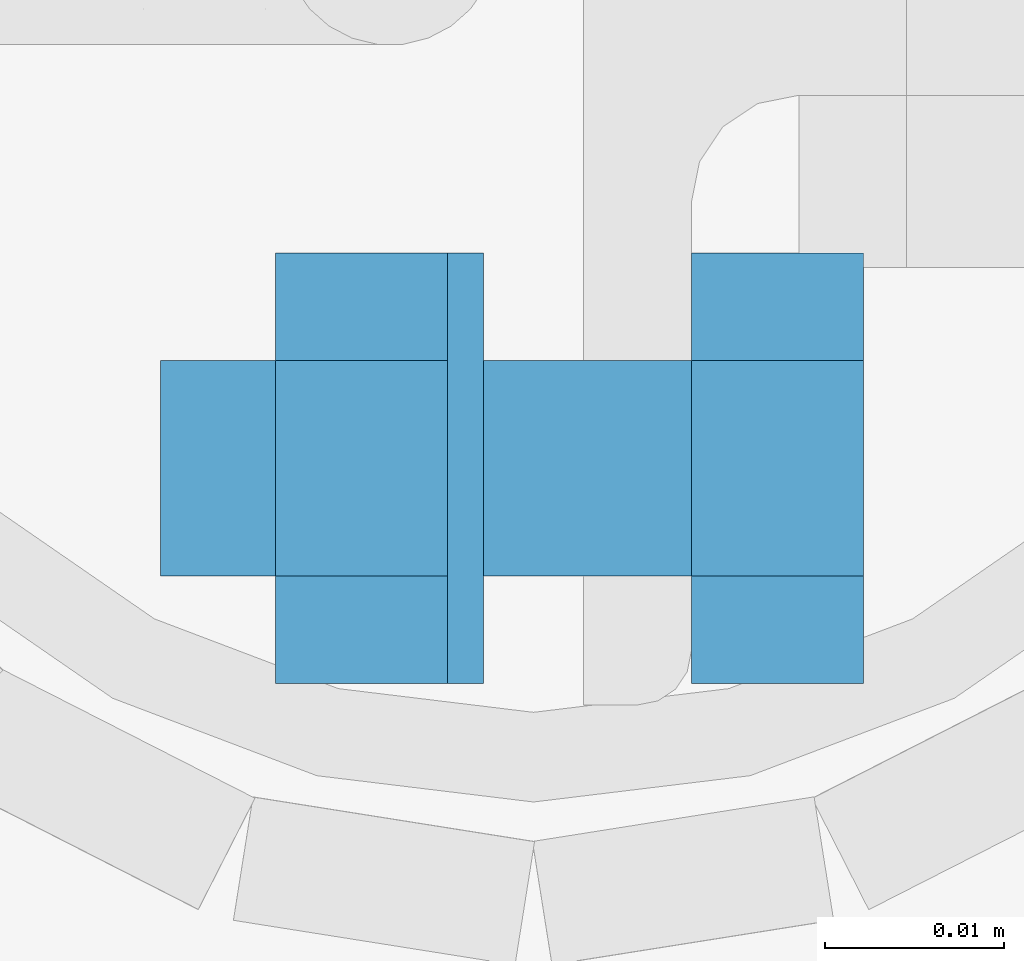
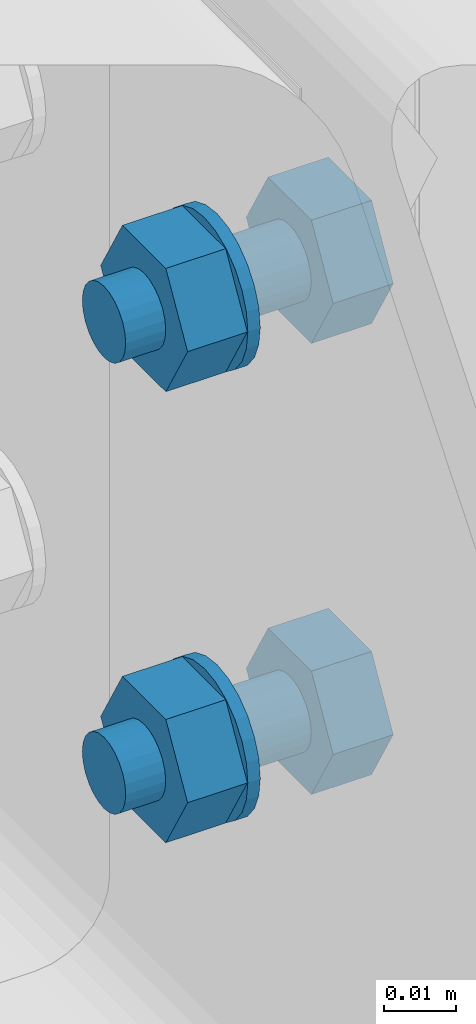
# One storey, part 51 of 84: 8 mechanical fasteners.
"""IFC4 building model written with IfcOpenShell, lengths in metres."""

from ifc_helpers import new_model, si_unit, frame, origin_with_axes, place, context, project, spatial, polyline, outline, extrude, type_object, element, save


model = new_model("IFC4")

# Units and contexts
model_context = context("Model", 3, precision=1e-05, world=origin_with_axes())
ifc_project = project(units=[si_unit("LENGTHUNIT", "METRE"), si_unit("AREAUNIT", "SQUARE_METRE"), si_unit("VOLUMEUNIT", "CUBIC_METRE"), si_unit("MASSUNIT", "GRAM", prefix="KILO"), si_unit("TIMEUNIT", "SECOND"), si_unit("PLANEANGLEUNIT", "RADIAN"), si_unit("SOLIDANGLEUNIT", "STERADIAN"), si_unit("THERMODYNAMICTEMPERATUREUNIT", "DEGREE_CELSIUS")], contexts=[model_context])

# Site, building, storey
placement_1 = place(None, origin_with_axes())
site = spatial("IfcSite", under=ifc_project, at=placement_1, Name="Italia", CompositionType="ELEMENT")
building = spatial("IfcBuilding", under=site, at=placement_1, Name="Tettoia", CompositionType="ELEMENT")
storey_placement = place(None, frame((0.0, 0.0, 4.199999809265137), z_axis=(0.0, 0.0, 1.0), x_axis=(1.0, 0.0, 0.0)))
storey = spatial("IfcBuildingStorey", under=building, at=storey_placement, Name="Storey 1", CompositionType="ELEMENT", Elevation=4.199999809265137)

# Mechanical fasteners
mechanical_fastener_type_1 = type_object("IfcMechanicalFastenerType", Name="Collegamento 0111_0112", PredefinedType="BOLT")
placement_2 = place(placement_1, origin_with_axes())
mechanical_fastener_1_placement = place(placement_2, origin_with_axes())
element("IfcMechanicalFastener", 1, at=mechanical_fastener_1_placement, inside=storey, type_object=mechanical_fastener_type_1, Name="Collegamento 0111_0112", NominalDiameter=0.0119997, context=model_context, shape_type="SweptSolid", body=[
    extrude(outline(polyline([(0.0, 0.0), (-0.0120001, 0.0), (-0.0179996, 0.0103922), (-0.0120001, 0.0207844), (0.0, 0.0207844), (0.00600052, 0.0103922), (0.0, 0.0)])), frame((0.1184, 13.9144, 4.25161), z_axis=(-1.0, 0.0, 0.0), x_axis=(0.0, -1.0, 0.0)), (0.0, 0.0, 1.0), 0.0096),
])
mechanical_fastener_type_2 = type_object("IfcMechanicalFastenerType", Name="Collegamento 0111_0112", PredefinedType="BOLT")
mechanical_fastener_2_placement = place(placement_2, origin_with_axes())
element("IfcMechanicalFastener", 2, at=mechanical_fastener_2_placement, inside=storey, type_object=mechanical_fastener_type_2, Name="Collegamento 0111_0112", NominalDiameter=0.012, context=model_context, shape_type="SweptSolid", body=[
    extrude(outline(polyline([(0.0, 0.0), (-0.000204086, -0.00155306), (-0.000802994, -0.00299978), (-0.00175667, -0.00424242), (-0.00299931, -0.00519609), (-0.00444698, -0.00579548), (-0.00599957, -0.00600004), (-0.00755215, -0.00579548), (-0.00899982, -0.00519609), (-0.0102425, -0.00424242), (-0.0111961, -0.00299978), (-0.011795, -0.00155306), (-0.0119991, 0.0), (-0.011795, 0.00155306), (-0.0111961, 0.00299978), (-0.0102425, 0.00424242), (-0.00899982, 0.00519609), (-0.00755215, 0.00579548), (-0.00599957, 0.00600004), (-0.00444698, 0.00579548), (-0.00299931, 0.00519609), (-0.00175667, 0.00424242), (-0.000802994, 0.00299978), (-0.000204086, 0.00155306), (0.0, 0.0)])), frame((0.1088, 13.9144, 4.262), z_axis=(-1.0, 0.0, 0.0), x_axis=(0.0, -1.0, 0.0)), (0.0, 0.0, 1.0), 0.0296),
])
mechanical_fastener_type_3 = type_object("IfcMechanicalFastenerType", Name="Collegamento 0111_0112", PredefinedType="BOLT")
mechanical_fastener_3_placement = place(placement_2, origin_with_axes())
element("IfcMechanicalFastener", 3, at=mechanical_fastener_3_placement, inside=storey, type_object=mechanical_fastener_type_3, Name="Collegamento 0111_0112", NominalDiameter=0.0119997, context=model_context, shape_type="SweptSolid", body=[
    extrude(outline(polyline([(0.0, 0.0), (-0.0120001, 0.0), (-0.0179996, 0.0103922), (-0.0120001, 0.0207844), (0.0, 0.0207844), (0.00600052, 0.0103922), (0.0, 0.0)])), frame((0.0951999, 13.9144, 4.25161), z_axis=(-1.0, 0.0, 0.0), x_axis=(0.0, -1.0, 0.0)), (0.0, 0.0, 1.0), 0.0096),
])
mechanical_fastener_type_4 = type_object("IfcMechanicalFastenerType", Name="Collegamento 0111_0112", PredefinedType="BOLT")
mechanical_fastener_4_placement = place(placement_2, origin_with_axes())
element("IfcMechanicalFastener", 4, at=mechanical_fastener_4_placement, inside=storey, type_object=mechanical_fastener_type_4, Name="Collegamento 0111_0112", NominalDiameter=0.024, context=model_context, shape_type="SweptSolid", body=[
    extrude(outline(polyline([(0.0, 0.0), (-0.000409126, -0.00310564), (-0.00160789, -0.00600004), (-0.00351524, -0.00848532), (-0.00600052, -0.0103922), (-0.00889397, -0.011591), (-0.0120001, -0.0120001), (-0.0151062, -0.011591), (-0.0179996, -0.0103922), (-0.0204849, -0.00848532), (-0.0223923, -0.00600004), (-0.023591, -0.00310564), (-0.0240002, 0.0), (-0.023591, 0.00310564), (-0.0223923, 0.00600004), (-0.0204849, 0.00848532), (-0.0179996, 0.0103922), (-0.0151062, 0.011591), (-0.0120001, 0.0120001), (-0.00889397, 0.011591), (-0.00600052, 0.0103922), (-0.00351524, 0.00848532), (-0.00160789, 0.00600004), (-0.000409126, 0.00310564), (0.0, 0.0)])), frame((0.0971999, 13.9084, 4.262), z_axis=(-1.0, 0.0, 0.0), x_axis=(0.0, -1.0, 0.0)), (0.0, 0.0, 1.0), 0.002),
])
mechanical_fastener_type_5 = type_object("IfcMechanicalFastenerType", Name="Collegamento 0111_0112", PredefinedType="BOLT")
mechanical_fastener_5_placement = place(placement_2, origin_with_axes())
element("IfcMechanicalFastener", 5, at=mechanical_fastener_5_placement, inside=storey, type_object=mechanical_fastener_type_5, Name="Collegamento 0111_0112", NominalDiameter=0.0119997, context=model_context, shape_type="SweptSolid", body=[
    extrude(outline(polyline([(0.0, 0.0), (-0.0120001, 0.0), (-0.0179996, 0.0103922), (-0.0120001, 0.0207844), (0.0, 0.0207844), (0.00600052, 0.0103922), (0.0, 0.0)])), frame((0.1184, 13.9144, 4.32761), z_axis=(-1.0, 0.0, 0.0), x_axis=(0.0, -1.0, 0.0)), (0.0, 0.0, 1.0), 0.0096),
])
mechanical_fastener_type_6 = type_object("IfcMechanicalFastenerType", Name="Collegamento 0111_0112", PredefinedType="BOLT")
mechanical_fastener_6_placement = place(placement_2, origin_with_axes())
element("IfcMechanicalFastener", 6, at=mechanical_fastener_6_placement, inside=storey, type_object=mechanical_fastener_type_6, Name="Collegamento 0111_0112", NominalDiameter=0.012, context=model_context, shape_type="SweptSolid", body=[
    extrude(outline(polyline([(0.0, 0.0), (-0.000204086, -0.00155306), (-0.000802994, -0.00299978), (-0.00175667, -0.00424242), (-0.00299931, -0.00519609), (-0.00444698, -0.00579548), (-0.00599957, -0.00600004), (-0.00755215, -0.00579548), (-0.00899982, -0.00519609), (-0.0102425, -0.00424242), (-0.0111961, -0.00299978), (-0.011795, -0.00155306), (-0.0119991, 0.0), (-0.011795, 0.00155306), (-0.0111961, 0.00299978), (-0.0102425, 0.00424242), (-0.00899982, 0.00519609), (-0.00755215, 0.00579548), (-0.00599957, 0.00600004), (-0.00444698, 0.00579548), (-0.00299931, 0.00519609), (-0.00175667, 0.00424242), (-0.000802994, 0.00299978), (-0.000204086, 0.00155306), (0.0, 0.0)])), frame((0.1088, 13.9144, 4.338), z_axis=(-1.0, 0.0, 0.0), x_axis=(0.0, -1.0, 0.0)), (0.0, 0.0, 1.0), 0.0296),
])
mechanical_fastener_type_7 = type_object("IfcMechanicalFastenerType", Name="Collegamento 0111_0112", PredefinedType="BOLT")
mechanical_fastener_7_placement = place(placement_2, origin_with_axes())
element("IfcMechanicalFastener", 7, at=mechanical_fastener_7_placement, inside=storey, type_object=mechanical_fastener_type_7, Name="Collegamento 0111_0112", NominalDiameter=0.0119997, context=model_context, shape_type="SweptSolid", body=[
    extrude(outline(polyline([(0.0, 0.0), (-0.0120001, 0.0), (-0.0179996, 0.0103922), (-0.0120001, 0.0207844), (0.0, 0.0207844), (0.00600052, 0.0103922), (0.0, 0.0)])), frame((0.0951999, 13.9144, 4.32761), z_axis=(-1.0, 0.0, 0.0), x_axis=(0.0, -1.0, 0.0)), (0.0, 0.0, 1.0), 0.0096),
])
mechanical_fastener_type_8 = type_object("IfcMechanicalFastenerType", Name="Collegamento 0111_0112", PredefinedType="BOLT")
mechanical_fastener_8_placement = place(placement_2, origin_with_axes())
element("IfcMechanicalFastener", 8, at=mechanical_fastener_8_placement, inside=storey, type_object=mechanical_fastener_type_8, Name="Collegamento 0111_0112", NominalDiameter=0.024, context=model_context, shape_type="SweptSolid", body=[
    extrude(outline(polyline([(0.0, 0.0), (-0.000409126, -0.00310564), (-0.00160789, -0.00600004), (-0.00351524, -0.00848532), (-0.00600052, -0.0103922), (-0.00889397, -0.011591), (-0.0120001, -0.0120001), (-0.0151062, -0.011591), (-0.0179996, -0.0103922), (-0.0204849, -0.00848532), (-0.0223923, -0.00600004), (-0.023591, -0.00310564), (-0.0240002, 0.0), (-0.023591, 0.00310564), (-0.0223923, 0.00600004), (-0.0204849, 0.00848532), (-0.0179996, 0.0103922), (-0.0151062, 0.011591), (-0.0120001, 0.0120001), (-0.00889397, 0.011591), (-0.00600052, 0.0103922), (-0.00351524, 0.00848532), (-0.00160789, 0.00600004), (-0.000409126, 0.00310564), (0.0, 0.0)])), frame((0.0971999, 13.9084, 4.338), z_axis=(-1.0, 0.0, 0.0), x_axis=(0.0, -1.0, 0.0)), (0.0, 0.0, 1.0), 0.002),
])

save(model, "model.ifc")
